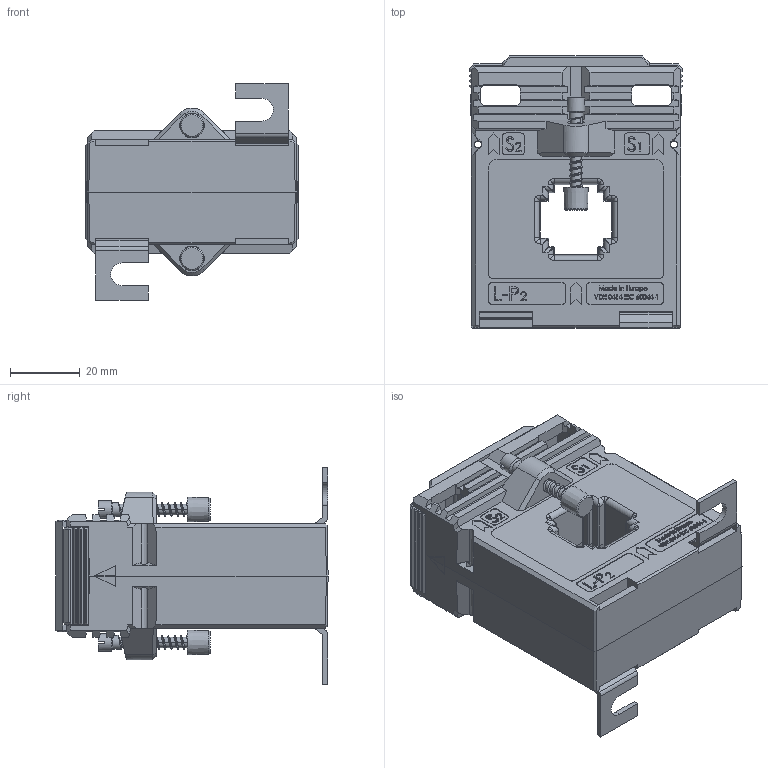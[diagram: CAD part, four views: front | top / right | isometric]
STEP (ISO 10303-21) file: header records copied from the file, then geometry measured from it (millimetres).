
FILE_DESCRIPTION(/* description */ (''),/* implementation_level */ '2;1');
FILE_NAME(/* name */ 'ASK21.3.stp',/* time_stamp */ '2024-02-08T15:11:45+01:00',/* author */ ('JDI'),/* organization */ (''),/* preprocessor_version */ 'ST-DEVELOPER v19.2',/* originating_system */ 'Autodesk Inventor 2023',/* authorisation */ '');
FILE_SCHEMA (('AUTOMOTIVE_DESIGN { 1 0 10303 214 3 1 1 }'));
Products named in the file (1): ASK21.3.ipt_Simplify_1
Bounding box: 61 x 77.8 x 62 mm (x, y, z)
Volume: 118368.7 mm3; surface area: 33338.1 mm2
Topology: 2 solids, 2 shells, 1839 faces, 4901 edges, 3172 vertices
Faces by surface type: plane 1220, bspline 366, cylinder 216, cone 29, sphere 8
Full cylindrical faces by diameter (mm): 2.95 x2, 3 x28, 3.8 x4, 4 x18, 4.1 x2, 5 x2, 10 x4
Entity records: 82630 total; most frequent: CARTESIAN_POINT 37439, ORIENTED_EDGE 9770, DIRECTION 7463, EDGE_CURVE 4885, LINE 3603, VECTOR 3603, VERTEX_POINT 3172, EDGE_LOOP 1999
